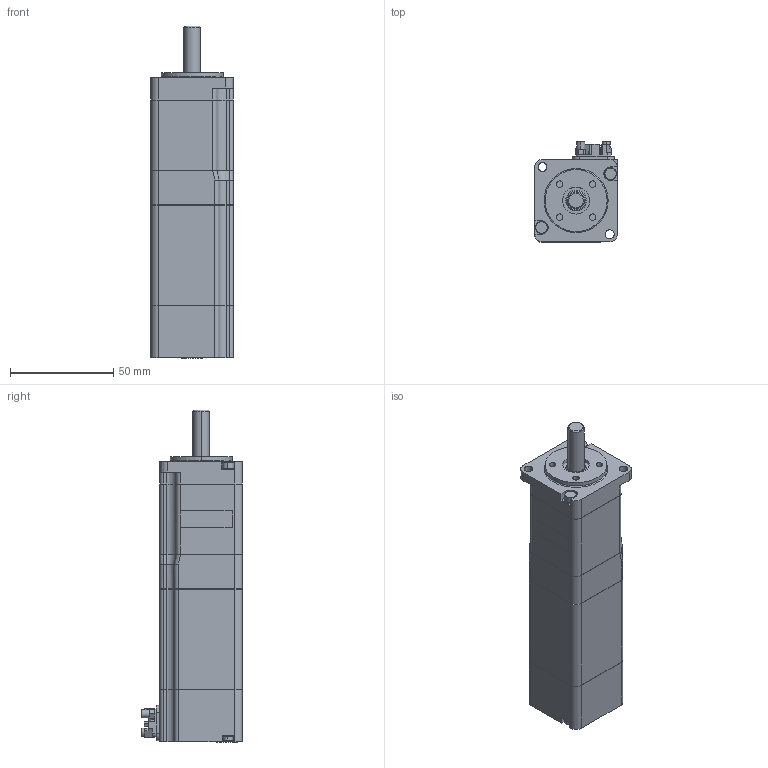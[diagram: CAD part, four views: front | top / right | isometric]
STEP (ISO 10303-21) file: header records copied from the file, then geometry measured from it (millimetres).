
FILE_DESCRIPTION (( 'STEP AP214' ), '1' );
FILE_NAME ('sgmxj_c2awa2ca_.STEP', '2021-07-12T08:57:57', ( '' ), ( '' ), 'SwSTEP 2.0', 'SolidWorks 2016', '' );
FILE_SCHEMA (( 'AUTOMOTIVE_DESIGN' ));
Length unit declared in the file: millimetre
Products named in the file (1): sgmxj_c2awa2ca_
Bounding box: 40.1 x 48.8 x 160.6 mm (x, y, z)
Volume: 205472.1 mm3; surface area: 27375.3 mm2
Topology: 1 solids, 1 shells, 363 faces, 963 edges, 639 vertices
Faces by surface type: plane 212, cylinder 134, bspline 11, cone 4, torus 2
Entity records: 15567 total; most frequent: CARTESIAN_POINT 2340, ORIENTED_EDGE 1926, DIRECTION 1901, EDGE_CURVE 963, VECTOR 651, LINE 651, VERTEX_POINT 639, AXIS2_PLACEMENT_3D 625
